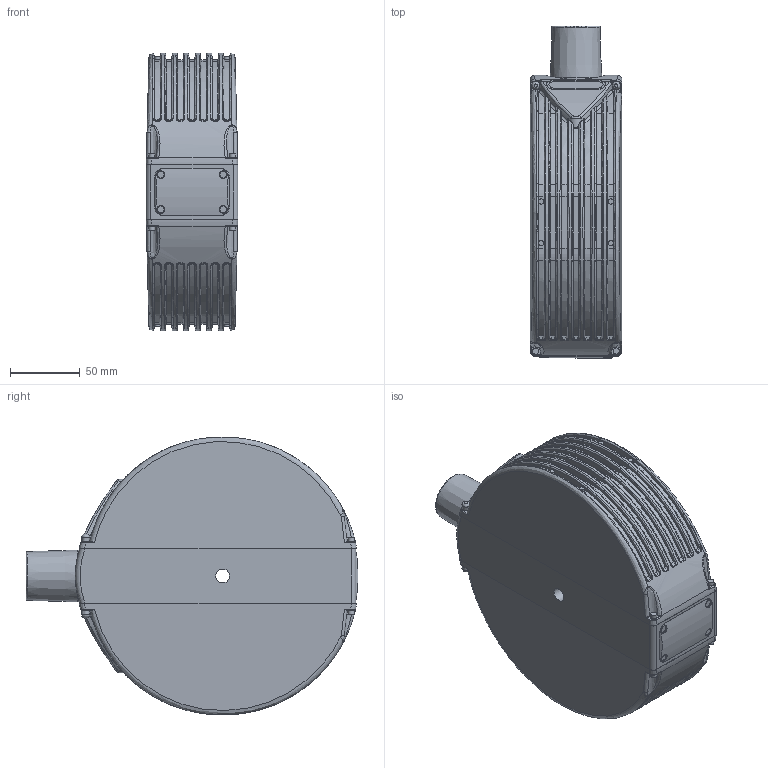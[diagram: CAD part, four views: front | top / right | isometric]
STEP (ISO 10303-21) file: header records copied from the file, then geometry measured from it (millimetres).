
FILE_DESCRIPTION(/* description */ (''),/* implementation_level */ '2;1');
FILE_NAME(/* name */ '577440-010_A-AT500 Absolute Tracker Mockup external.stp',/* time_stamp */ '2021-12-13T13:50:45+01:00',/* author */ (''),/* organization */ (''),/* preprocessor_version */ 'ST-DEVELOPER v18.1',/* originating_system */ 'SIEMENS PLM Software NX 1969',/* authorisation */ '');
FILE_SCHEMA (('AUTOMOTIVE_DESIGN { 1 0 10303 214 3 1 1 1 }'));
Length unit declared in the file: millimetre
Products named in the file (1): FUSI406810BD1p0v
Bounding box: 66.01 x 238.84 x 200 mm (x, y, z)
Volume: 2006835.4 mm3; surface area: 125698.3 mm2
Topology: 1 solids, 6 shells, 785 faces, 1870 edges, 1122 vertices
Faces by surface type: bspline 304, plane 152, cylinder 130, extrusion 84, revolution 70, cone 36, torus 7, sphere 2
Full cylindrical faces by diameter (mm): 2.5 x4, 3.8 x8, 4.5 x4, 5 x4, 10 x1, 30.2 x1, 37.273 x1
Entity records: 38545 total; most frequent: CARTESIAN_POINT 19161, ORIENTED_EDGE 3548, EDGE_CURVE 1774, DIRECTION 1734, B_SPLINE_CURVE_WITH_KNOTS 1326, VERTEX_POINT 1077, EDGE_LOOP 859, ADVANCED_FACE 785
